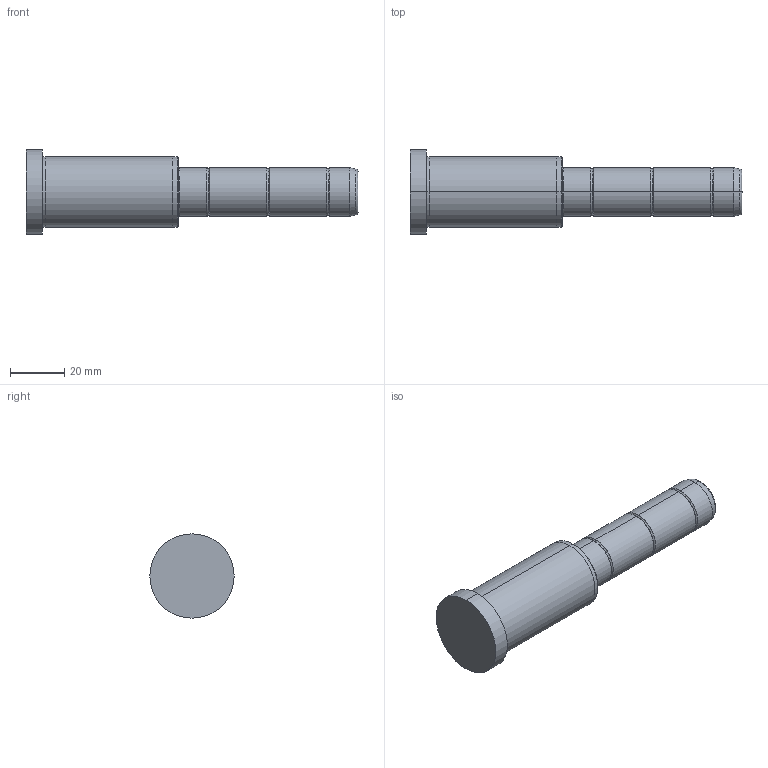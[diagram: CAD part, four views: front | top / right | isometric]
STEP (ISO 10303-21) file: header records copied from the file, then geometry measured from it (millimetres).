
FILE_DESCRIPTION( ( 'STEP AP203' ), '1' );
FILE_NAME( 'C:/Projects/D02 - 18x56x66.step', '2003-01-04T13:33:25', ( ' ' ), ( ' ' ), 'XStep 1.0', ' ', ' ' );
FILE_SCHEMA( ( 'CONFIG_CONTROL_DESIGN' ) );
Length unit declared in the file: metre
Products named in the file (1): 1
Bounding box: 122 x 31 x 31 mm (x, y, z)
Volume: 47764.5 mm3; surface area: 9908.7 mm2
Topology: 1 solids, 1 shells, 42 faces, 82 edges, 46 vertices
Faces by surface type: bspline 22, revolution 20
Entity records: 1325 total; most frequent: CARTESIAN_POINT 517, ORIENTED_EDGE 164, DIRECTION 134, EDGE_CURVE 82, AXIS2_PLACEMENT_3D 47, EDGE_LOOP 46, VERTEX_POINT 46, CIRCLE 46
